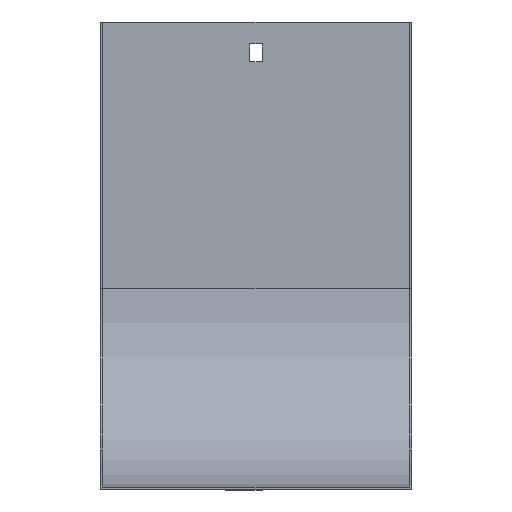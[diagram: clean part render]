
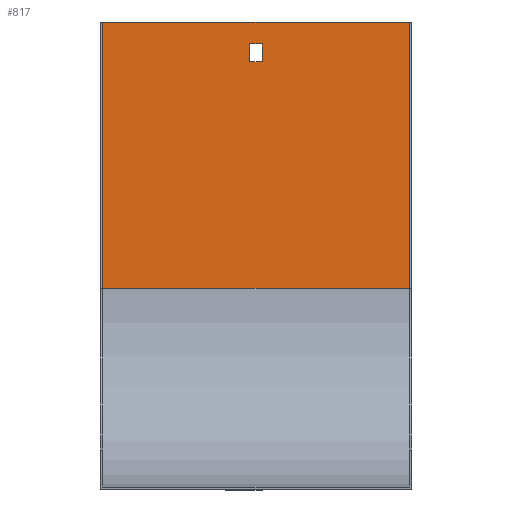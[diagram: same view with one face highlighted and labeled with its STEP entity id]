
A CAD part, front view. The second image highlights one B-rep face of the part: STEP entity #817.
In plain terms, the highlighted planar face has unit normal (0, -1, 0).
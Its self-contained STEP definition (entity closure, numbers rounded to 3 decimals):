
#4 = EDGE_CURVE ( 'NONE', #344, #820, #156, .T. ) ;
#16 = EDGE_CURVE ( 'NONE', #726, #72, #832, .T. ) ;
#24 = CARTESIAN_POINT ( 'NONE',  ( 78.5, -1.5, -11. ) ) ;
#41 = EDGE_CURVE ( 'NONE', #72, #344, #220, .T. ) ;
#61 = LINE ( 'NONE', #468, #429 ) ;
#72 = VERTEX_POINT ( 'NONE', #705 ) ;
#79 = PLANE ( 'NONE',  #807 ) ;
#89 = VECTOR ( 'NONE', #770, 1000. ) ;
#93 = DIRECTION ( 'NONE',  ( 0., 0., -1. ) ) ;
#102 = ORIENTED_EDGE ( 'NONE', *, *, #426, .F. ) ;
#137 = DIRECTION ( 'NONE',  ( 0., 0., -1. ) ) ;
#156 = LINE ( 'NONE', #24, #348 ) ;
#164 = ORIENTED_EDGE ( 'NONE', *, *, #16, .F. ) ;
#185 = ORIENTED_EDGE ( 'NONE', *, *, #4, .F. ) ;
#207 = CARTESIAN_POINT ( 'NONE',  ( 78.5, -1.5, -134. ) ) ;
#209 = FACE_BOUND ( 'NONE', #520, .T. ) ;
#210 = VECTOR ( 'NONE', #313, 1000. ) ;
#217 = VERTEX_POINT ( 'NONE', #384 ) ;
#220 = LINE ( 'NONE', #409, #685 ) ;
#221 = DIRECTION ( 'NONE',  ( 0., 0., 1. ) ) ;
#227 = DIRECTION ( 'NONE',  ( 0., -1., 0. ) ) ;
#231 = VECTOR ( 'NONE', #607, 1000. ) ;
#234 = ORIENTED_EDGE ( 'NONE', *, *, #317, .T. ) ;
#258 = CARTESIAN_POINT ( 'NONE',  ( 77., -1.5, 0. ) ) ;
#265 = CARTESIAN_POINT ( 'NONE',  ( 3.25, -1.5, -11. ) ) ;
#267 = DIRECTION ( 'NONE',  ( 0., 0., 1. ) ) ;
#268 = CARTESIAN_POINT ( 'NONE',  ( -3.25, -1.5, -20. ) ) ;
#283 = LINE ( 'NONE', #207, #652 ) ;
#288 = DIRECTION ( 'NONE',  ( -1., 0., 0. ) ) ;
#311 = VECTOR ( 'NONE', #221, 1000. ) ;
#313 = DIRECTION ( 'NONE',  ( -1., 0., 0. ) ) ;
#317 = EDGE_CURVE ( 'NONE', #625, #755, #788, .T. ) ;
#344 = VERTEX_POINT ( 'NONE', #265 ) ;
#348 = VECTOR ( 'NONE', #288, 1000. ) ;
#349 = CARTESIAN_POINT ( 'NONE',  ( -3.25, -1.5, -11. ) ) ;
#367 = ORIENTED_EDGE ( 'NONE', *, *, #810, .F. ) ;
#384 = CARTESIAN_POINT ( 'NONE',  ( -77., -1.5, -134. ) ) ;
#409 = CARTESIAN_POINT ( 'NONE',  ( 3.25, -1.5, 0. ) ) ;
#410 = CARTESIAN_POINT ( 'NONE',  ( -77., -1.5, -134. ) ) ;
#417 = FACE_OUTER_BOUND ( 'NONE', #851, .T. ) ;
#426 = EDGE_CURVE ( 'NONE', #842, #217, #283, .T. ) ;
#429 = VECTOR ( 'NONE', #137, 1000. ) ;
#468 = CARTESIAN_POINT ( 'NONE',  ( -3.25, -1.5, 0. ) ) ;
#474 = DIRECTION ( 'NONE',  ( -1., 0., 0. ) ) ;
#482 = CARTESIAN_POINT ( 'NONE',  ( 78.5, -1.5, 0. ) ) ;
#504 = CARTESIAN_POINT ( 'NONE',  ( 77., -1.5, -134. ) ) ;
#505 = EDGE_CURVE ( 'NONE', #842, #625, #624, .T. ) ;
#520 = EDGE_LOOP ( 'NONE', ( #597, #185, #727, #164 ) ) ;
#535 = CARTESIAN_POINT ( 'NONE',  ( -77., -1.5, 0. ) ) ;
#557 = LINE ( 'NONE', #410, #311 ) ;
#564 = CARTESIAN_POINT ( 'NONE',  ( 78.5, -1.5, 0. ) ) ;
#591 = ORIENTED_EDGE ( 'NONE', *, *, #505, .T. ) ;
#597 = ORIENTED_EDGE ( 'NONE', *, *, #740, .F. ) ;
#607 = DIRECTION ( 'NONE',  ( 0., 0., 1. ) ) ;
#624 = LINE ( 'NONE', #504, #231 ) ;
#625 = VERTEX_POINT ( 'NONE', #258 ) ;
#652 = VECTOR ( 'NONE', #474, 1000. ) ;
#685 = VECTOR ( 'NONE', #267, 1000. ) ;
#692 = CARTESIAN_POINT ( 'NONE',  ( 77., -1.5, -134. ) ) ;
#705 = CARTESIAN_POINT ( 'NONE',  ( 3.25, -1.5, -20. ) ) ;
#726 = VERTEX_POINT ( 'NONE', #268 ) ;
#727 = ORIENTED_EDGE ( 'NONE', *, *, #41, .F. ) ;
#740 = EDGE_CURVE ( 'NONE', #820, #726, #61, .T. ) ;
#755 = VERTEX_POINT ( 'NONE', #535 ) ;
#762 = CARTESIAN_POINT ( 'NONE',  ( 78.5, -1.5, -20. ) ) ;
#770 = DIRECTION ( 'NONE',  ( 1., 0., 0. ) ) ;
#788 = LINE ( 'NONE', #564, #210 ) ;
#807 = AXIS2_PLACEMENT_3D ( 'NONE', #482, #227, #93 ) ;
#810 = EDGE_CURVE ( 'NONE', #217, #755, #557, .T. ) ;
#817 = ADVANCED_FACE ( 'NONE', ( #209, #417 ), #79, .T. ) ;
#820 = VERTEX_POINT ( 'NONE', #349 ) ;
#832 = LINE ( 'NONE', #762, #89 ) ;
#842 = VERTEX_POINT ( 'NONE', #692 ) ;
#851 = EDGE_LOOP ( 'NONE', ( #367, #102, #591, #234 ) ) ;
